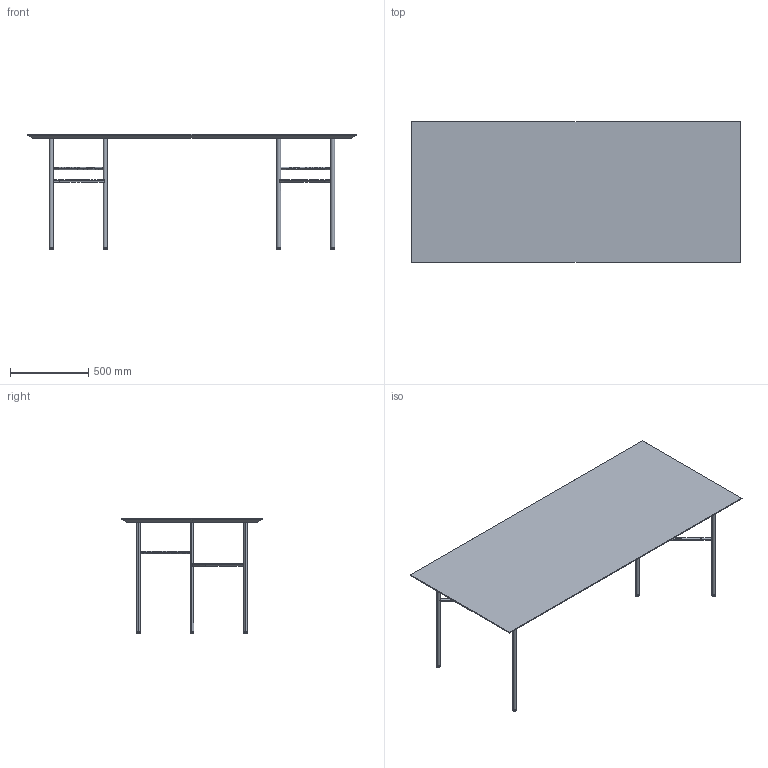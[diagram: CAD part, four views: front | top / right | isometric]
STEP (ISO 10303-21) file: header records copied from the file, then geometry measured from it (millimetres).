
FILE_DESCRIPTION(/* description */ (''),/* implementation_level */ '2;1');
FILE_NAME(/* name */ 'MODUA6~0',/* time_stamp */ '2018-04-16T15:33:56+02:00',/* author */ (''),/* organization */ (''),/* preprocessor_version */ 'ST-DEVELOPER v15',/* originating_system */ '',/* authorisation */ '');
FILE_SCHEMA (('AUTOMOTIVE_DESIGN'));
Length unit declared in the file: millimetre
Products named in the file (1): Document
Bounding box: 2100 x 900 x 737.83 mm (x, y, z)
Volume: 799137 mm3; surface area: 4660777.6 mm2
Topology: 12 solids, 19 shells, 188 faces, 427 edges, 290 vertices
Faces by surface type: bspline 188
Entity records: 13359 total; most frequent: CARTESIAN_POINT 8235, ORIENTED_EDGE 812, PCURVE 812, DEFINITIONAL_REPRESENTATION 812, B_SPLINE_CURVE_WITH_KNOTS 671, SURFACE_CURVE 423, EDGE_CURVE 423, VERTEX_POINT 285
